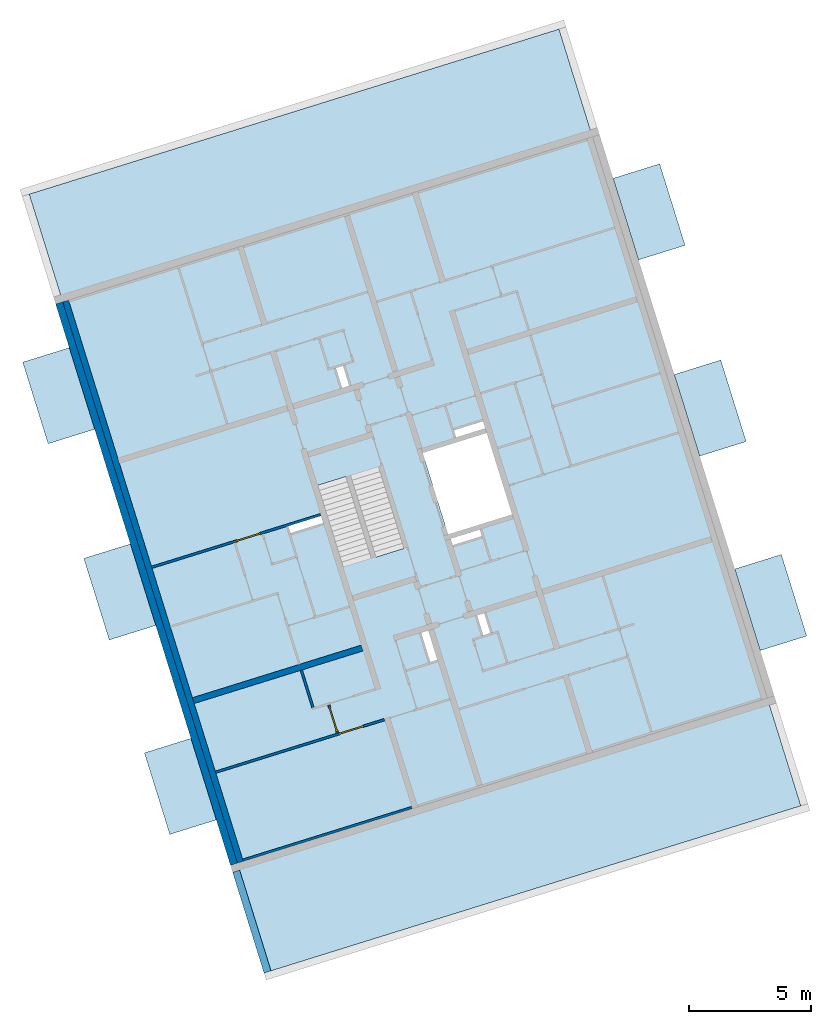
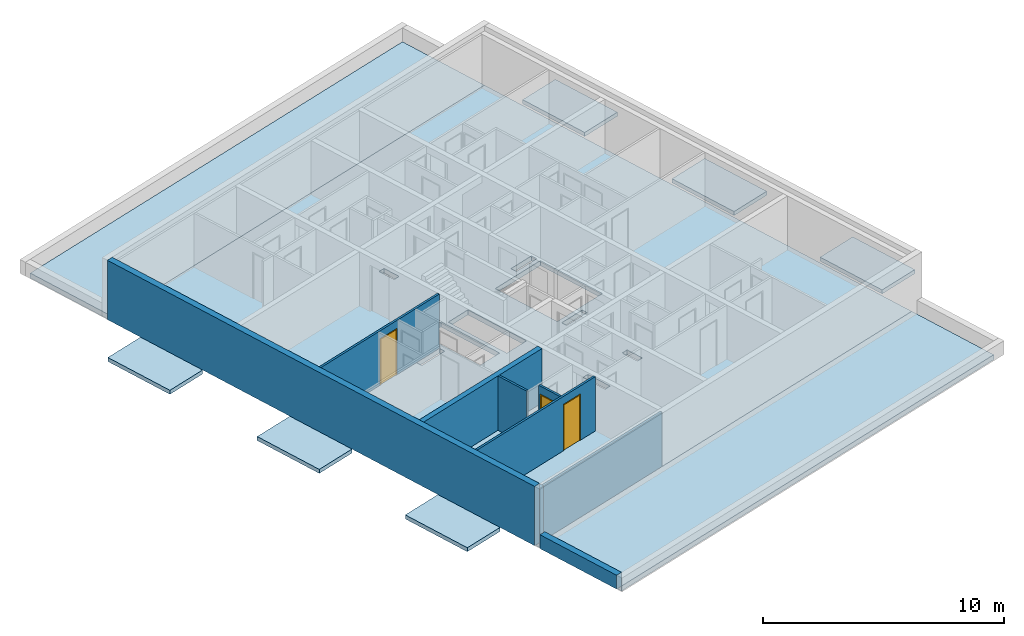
# One storey, part 1 of 9: 9 slabs, 9 walls, 3 doors, 11 openings.
"""IFC4 building model written with IfcOpenShell, lengths in metres."""

from ifc_helpers import new_model, entity, si_unit, converted_unit, direction, frame, origin, place, context, subcontext, project, spatial, indexed_curve, outline, extrude, polygons, source, transform, mapped, material, constituent, constituent_set, type_object, type_shapes, element, fill, save


model = new_model("IFC4")

# Units and contexts
model_context = context("Model", 3, precision=1e-05, world=origin(), true_north=direction((6.12323399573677e-17, 1.0)))
body_context = subcontext(model_context, "Body", "Model", "MODEL_VIEW")
ifc_project = project(units=[si_unit("LENGTHUNIT", "METRE"), si_unit("AREAUNIT", "SQUARE_METRE"), converted_unit("PLANEANGLEUNIT", "DEGREE", entity("IfcPlaneAngleMeasure", 0.0174532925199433), si_unit("PLANEANGLEUNIT", "RADIAN"), dimensions=[0, 0, 0, 0, 0, 0, 0]), si_unit("VOLUMEUNIT", "CUBIC_METRE")], contexts=[model_context])

# Site, building, storey
site_placement = place(None, frame((13.1347999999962, 11.9886000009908, 0.0), z_axis=(0.0, 0.0, 1.0), x_axis=(0.954770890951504, 0.297342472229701, 0.0)))
site = spatial("IfcSite", under=ifc_project, at=site_placement, Name="Schiehaven", CompositionType="ELEMENT")
building_placement = place(site_placement, origin())
building = spatial("IfcBuilding", under=site, at=building_placement, Name="VORM huis", CompositionType="ELEMENT")
storey_placement = place(building_placement, frame((0.0, 0.0, 6.9)))
storey = spatial("IfcBuildingStorey", under=building, at=storey_placement, Name="02 tweede verdieping", CompositionType="ELEMENT", Elevation=6.9)

# Slab, openings
ifc_material_1 = material(Name="beton_gewapend_ihw", Category="Miscellaneous")
slab_type_1 = type_object("IfcSlabType", Name="Floor:28_FL_skelet_vloer 250mm", PredefinedType="FLOOR", material=ifc_material_1)
slab_1_placement = place(storey_placement, origin())
slab_1 = element("IfcSlab", 1, at=slab_1_placement, inside=storey, type_object=slab_type_1, material=ifc_material_1, Name="Constructieve vloer", ObjectType="Vloer", PredefinedType="FLOOR", context=body_context, shape_type="SweptSolid", body=[
    extrude(outline(indexed_curve([(-12.05, -11.375), (12.05, -11.375), (12.05, 11.375), (-12.05, 11.375), (-12.05, -11.375)], self_intersect=False), holes=[indexed_curve([(1.75000000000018, 3.62500000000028), (1.75000000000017, 0.875000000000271), (-1.74999999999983, 0.875000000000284), (-1.74999999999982, 3.62500000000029), (1.75000000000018, 3.62500000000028)], self_intersect=False), indexed_curve([(-1.54, -2.22499999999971), (-1.54, -1.02499999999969), (1.76000000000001, -1.0249999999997), (1.76, -2.22499999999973), (-1.54, -2.22499999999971)], self_intersect=False), indexed_curve([(1.54, -3.62499999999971), (-1.76, -3.6249999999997), (-1.75999999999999, -2.42499999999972), (1.54, -2.42499999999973), (1.54, -3.62499999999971)], self_intersect=False), indexed_curve([(5.27499999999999, 1.02499999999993), (5.27499999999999, 1.32499999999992), (6.125, 1.32499999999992), (6.125, 1.02499999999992), (5.27499999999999, 1.02499999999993)], self_intersect=False), indexed_curve([(-6.12500000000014, -1.18400000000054), (-5.27500000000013, -1.18400000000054), (-5.27500000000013, -1.48400000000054), (-6.12500000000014, -1.48400000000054), (-6.12500000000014, -1.18400000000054)], self_intersect=False), indexed_curve([(5.27500000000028, -1.07500000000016), (6.5250000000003, -1.07500000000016), (6.52500000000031, -1.37500000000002), (5.27500000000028, -1.37500000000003), (5.27500000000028, -1.07500000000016)], self_intersect=False), indexed_curve([(-0.524999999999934, -3.87283572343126), (-0.224999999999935, -3.87283572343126), (-0.22499999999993, -5.27500000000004), (-0.524999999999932, -5.27500000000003), (-0.524999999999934, -3.87283572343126)], self_intersect=False), indexed_curve([(1.95000000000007, 2.17499999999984), (2.22500000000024, 2.17499999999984), (2.22500000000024, 0.924999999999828), (1.95000000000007, 0.924999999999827), (1.95000000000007, 2.17499999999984)], self_intersect=False), indexed_curve([(-2.25000000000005, 3.62499999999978), (-1.94999999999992, 3.62499999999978), (-1.94999999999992, 2.37499999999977), (-2.25000000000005, 2.37499999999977), (-2.25000000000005, 3.62499999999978)], self_intersect=False)]), frame((68.7500000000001, 17.0499999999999, -0.249999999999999), z_axis=(0.0, 0.0, 1.0), x_axis=(0.0, -1.0, 0.0)), (0.0, 0.0, 1.0), 0.249999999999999),
])
opening_1_placement = place(slab_1_placement, origin())
element("IfcOpeningElement", 2, at=opening_1_placement, cuts=slab_1, Name="Constructieve vloer", PredefinedType="OPENING", context=body_context, shape_type="SweptSolid", body=[
    extrude(outline(indexed_curve([(-1.75, -1.37499999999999), (1.75, -1.37499999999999), (1.75, 1.37500000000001), (-1.75, 1.37500000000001), (-1.75, -1.37499999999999)], self_intersect=False)), frame((71.0, 17.0499999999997, -0.249999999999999), z_axis=(0.0, 0.0, 1.0), x_axis=(0.0, 1.0, 0.0)), (0.0, 0.0, 1.0), 0.249999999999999),
])
opening_2_placement = place(slab_1_placement, origin())
element("IfcOpeningElement", 3, at=opening_2_placement, cuts=slab_1, Name="Constructieve vloer", PredefinedType="OPENING", context=body_context, shape_type="SweptSolid", body=[
    extrude(outline(indexed_curve([(-1.65, -0.600000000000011), (1.65000000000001, -0.600000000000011), (1.65000000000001, 0.600000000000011), (-1.65, 0.600000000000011), (-1.65, -0.600000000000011)], self_intersect=False)), frame((67.1250000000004, 16.9399999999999, -0.249999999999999), z_axis=(0.0, 0.0, 1.0), x_axis=(0.0, -1.0, 0.0)), (0.0, 0.0, 1.0), 0.249999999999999),
])
opening_3_placement = place(slab_1_placement, origin())
element("IfcOpeningElement", 4, at=opening_3_placement, cuts=slab_1, Name="Constructieve vloer", PredefinedType="OPENING", context=body_context, shape_type="SweptSolid", body=[
    extrude(outline(indexed_curve([(-0.425000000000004, -0.150000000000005), (0.425000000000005, -0.150000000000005), (0.425000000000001, 0.149999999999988), (-0.425000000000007, 0.149999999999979), (-0.425000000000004, -0.150000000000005)], self_intersect=False)), frame((69.925, 11.3499999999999, -0.249999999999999), z_axis=(0.0, 0.0, 1.0), x_axis=(0.0, -1.0, 0.0)), (0.0, 0.0, 1.0), 0.249999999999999),
])
opening_4_placement = place(slab_1_placement, origin())
element("IfcOpeningElement", 5, at=opening_4_placement, cuts=slab_1, Name="Constructieve vloer", PredefinedType="OPENING", context=body_context, shape_type="SweptSolid", body=[
    extrude(outline(indexed_curve([(-0.150000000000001, -0.425000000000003), (0.150000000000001, -0.425000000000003), (0.150000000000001, 0.425000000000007), (-0.150000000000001, 0.425000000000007), (-0.150000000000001, -0.425000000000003)], self_intersect=False)), frame((67.4159999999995, 22.7500000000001, -0.249999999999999), z_axis=(0.0, 0.0, 1.0), x_axis=(-1.0, 0.0, 0.0)), (0.0, 0.0, 1.0), 0.249999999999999),
])
opening_5_placement = place(slab_1_placement, origin())
element("IfcOpeningElement", 6, at=opening_5_placement, cuts=slab_1, Name="Constructieve vloer", PredefinedType="OPENING", context=body_context, shape_type="SweptSolid", body=[
    extrude(outline(indexed_curve([(-0.14999999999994, -0.625000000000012), (0.149999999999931, -0.625000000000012), (0.149999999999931, 0.625000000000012), (-0.14999999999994, 0.625000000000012), (-0.14999999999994, -0.625000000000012)], self_intersect=False)), frame((67.525, 11.1499999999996, -0.249999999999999), z_axis=(0.0, 0.0, 1.0), x_axis=(-1.0, 0.0, 0.0)), (0.0, 0.0, 1.0), 0.249999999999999),
])
opening_6_placement = place(slab_1_placement, origin())
element("IfcOpeningElement", 7, at=opening_6_placement, cuts=slab_1, Name="Constructieve vloer", PredefinedType="OPENING", context=body_context, shape_type="SweptSolid", body=[
    extrude(outline(indexed_curve([(-0.701082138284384, -0.150000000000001), (0.701082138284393, -0.150000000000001), (0.701082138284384, 0.149999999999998), (-0.701082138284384, 0.150000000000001), (-0.701082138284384, -0.150000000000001)], self_intersect=False)), frame((64.1760821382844, 17.4249999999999, -0.249999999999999), z_axis=(0.0, 0.0, 1.0), x_axis=(-1.0, 0.0, 0.0)), (0.0, 0.0, 1.0), 0.249999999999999),
])
opening_7_placement = place(slab_1_placement, origin())
element("IfcOpeningElement", 8, at=opening_7_placement, cuts=slab_1, Name="Constructieve vloer", PredefinedType="OPENING", context=body_context, shape_type="SweptSolid", body=[
    extrude(outline(indexed_curve([(-0.625000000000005, -0.137500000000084), (0.625000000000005, -0.137500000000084), (0.625000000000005, 0.137500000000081), (-0.625000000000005, 0.137500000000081), (-0.625000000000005, -0.137500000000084)], self_intersect=False)), frame((70.2999999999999, 14.9624999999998, -0.249999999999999), z_axis=(0.0, 0.0, 1.0), x_axis=(-1.0, 0.0, 0.0)), (0.0, 0.0, 1.0), 0.249999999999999),
])
opening_8_placement = place(slab_1_placement, origin())
element("IfcOpeningElement", 9, at=opening_8_placement, cuts=slab_1, Name="Constructieve vloer", PredefinedType="OPENING", context=body_context, shape_type="SweptSolid", body=[
    extrude(outline(indexed_curve([(-0.625000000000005, -0.150000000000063), (0.625000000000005, -0.150000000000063), (0.625000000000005, 0.150000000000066), (-0.625000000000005, 0.150000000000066), (-0.625000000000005, -0.150000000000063)], self_intersect=False)), frame((71.7499999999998, 19.1499999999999, -0.249999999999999), z_axis=(0.0, 0.0, 1.0), x_axis=(-1.0, 0.0, 0.0)), (0.0, 0.0, 1.0), 0.249999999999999),
])

# Slabs
ifc_material_2 = material(Name="beton_gewapend_prefab-element", Category="Miscellaneous")
slab_type_2 = type_object("IfcSlabType", Name="Floor:23_FL_skelet_balkon 200mm", PredefinedType="FLOOR", material=ifc_material_2)
slab_2_placement = place(storey_placement, origin())
element("IfcSlab", 10, at=slab_2_placement, inside=storey, type_object=slab_type_2, material=ifc_material_2, Name="Balkonvloer", ObjectType="Vloer", PredefinedType="FLOOR", context=body_context, shape_type="SweptSolid", body=[
    extrude(outline(indexed_curve([(-1.75000000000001, -0.999999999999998), (1.75000000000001, -0.999999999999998), (1.75000000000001, 0.999999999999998), (-1.75000000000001, 0.999999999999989), (-1.75000000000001, -0.999999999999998)], self_intersect=False)), frame((56.0750000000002, 25.4749999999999, 0.0), z_axis=(0.0, 0.0, -1.0), x_axis=(0.0, 1.0, 0.0)), (0.0, 0.0, 1.0), 0.2),
])
slab_3_placement = place(storey_placement, origin())
element("IfcSlab", 11, at=slab_3_placement, inside=storey, type_object=slab_type_2, material=ifc_material_2, Name="Balkonvloer", ObjectType="Vloer", PredefinedType="FLOOR", context=body_context, shape_type="SweptSolid", body=[
    extrude(outline(indexed_curve([(-1.75000000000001, -0.999999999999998), (1.75000000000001, -0.999999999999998), (1.75000000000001, 0.999999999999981), (-1.75000000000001, 0.999999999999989), (-1.75000000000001, -0.999999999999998)], self_intersect=False)), frame((56.0750000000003, 8.69999999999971, 0.0), z_axis=(0.0, 0.0, -1.0), x_axis=(0.0, 1.0, 0.0)), (0.0, 0.0, 1.0), 0.2),
])
slab_4_placement = place(storey_placement, origin())
element("IfcSlab", 12, at=slab_4_placement, inside=storey, type_object=slab_type_2, material=ifc_material_2, Name="Balkonvloer", ObjectType="Vloer", PredefinedType="FLOOR", context=body_context, shape_type="SweptSolid", body=[
    extrude(outline(indexed_curve([(-1.75000000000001, -1.0), (1.75000000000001, -1.0), (1.75000000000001, 0.999999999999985), (-1.75000000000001, 0.999999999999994), (-1.75000000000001, -1.0)], self_intersect=False)), frame((56.0750000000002, 17.0499999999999, 0.0), z_axis=(0.0, 0.0, -1.0), x_axis=(0.0, 1.0, 0.0)), (0.0, 0.0, 1.0), 0.2),
])
slab_5_placement = place(storey_placement, origin())
element("IfcSlab", 13, at=slab_5_placement, inside=storey, type_object=slab_type_2, material=ifc_material_2, Name="Balkonvloer", ObjectType="Vloer", PredefinedType="FLOOR", context=body_context, shape_type="SweptSolid", body=[
    extrude(outline(indexed_curve([(-1.75000000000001, -0.999999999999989), (1.75000000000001, -0.999999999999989), (1.75000000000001, 1.00000000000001), (-1.75000000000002, 0.999999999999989), (-1.75000000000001, -0.999999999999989)], self_intersect=False)), frame((81.4249999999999, 25.4750000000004, 0.0), z_axis=(0.0, 0.0, -1.0), x_axis=(0.0, 1.0, 0.0)), (0.0, 0.0, 1.0), 0.2),
])
slab_6_placement = place(storey_placement, origin())
element("IfcSlab", 14, at=slab_6_placement, inside=storey, type_object=slab_type_2, material=ifc_material_2, Name="Balkonvloer", ObjectType="Vloer", PredefinedType="FLOOR", context=body_context, shape_type="SweptSolid", body=[
    extrude(outline(indexed_curve([(-1.75000000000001, -0.999999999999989), (1.75, -0.999999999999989), (1.75000000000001, 0.999999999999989), (-1.75, 1.00000000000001), (-1.75000000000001, -0.999999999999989)], self_intersect=False)), frame((81.425, 8.69999999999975, 0.0), z_axis=(0.0, 0.0, -1.0), x_axis=(0.0, 1.0, 0.0)), (0.0, 0.0, 1.0), 0.2),
])
slab_7_placement = place(storey_placement, origin())
element("IfcSlab", 15, at=slab_7_placement, inside=storey, type_object=slab_type_2, material=ifc_material_2, Name="Balkonvloer", ObjectType="Vloer", PredefinedType="FLOOR", context=body_context, shape_type="SweptSolid", body=[
    extrude(outline(indexed_curve([(-1.75000000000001, -0.999999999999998), (1.75, -0.999999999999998), (1.75000000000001, 0.999999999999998), (-1.75000000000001, 0.999999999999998), (-1.75000000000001, -0.999999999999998)], self_intersect=False)), frame((81.425, 17.05, 0.0), z_axis=(0.0, 0.0, -1.0), x_axis=(0.0, 1.0, 0.0)), (0.0, 0.0, 1.0), 0.2),
])
slab_type_3 = type_object("IfcSlabType", Name="Floor:28_FL_skelet_dakterrasvloer 250mm", PredefinedType="ROOF", material=ifc_material_1)
slab_8_placement = place(storey_placement, origin())
element("IfcSlab", 16, at=slab_8_placement, inside=storey, type_object=slab_type_3, material=ifc_material_1, Name="Begaanbare dakvloer", ObjectType="Vloer", PredefinedType="ROOF", context=body_context, shape_type="SweptSolid", body=[
    extrude(outline(indexed_curve([(-2.31249999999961, -11.375), (2.31250000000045, -11.375), (2.31249999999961, 11.375), (-2.31250000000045, 11.375), (-2.31249999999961, -11.375)], self_intersect=False)), frame((68.7500000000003, 2.68749999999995, 0.0), z_axis=(0.0, 0.0, -1.0), x_axis=(0.0, 1.0, 0.0)), (0.0, 0.0, 1.0), 0.249999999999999),
])
slab_9_placement = place(storey_placement, origin())
element("IfcSlab", 17, at=slab_9_placement, inside=storey, type_object=slab_type_3, material=ifc_material_1, Name="Begaanbare dakvloer", ObjectType="Vloer", PredefinedType="ROOF", context=body_context, shape_type="SweptSolid", body=[
    extrude(outline(indexed_curve([(-2.31249999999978, -11.3750000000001), (2.31250000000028, -11.3750000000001), (2.31249999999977, 11.3750000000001), (-2.31250000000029, 11.3750000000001), (-2.31249999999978, -11.3750000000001)], self_intersect=False)), frame((68.7500000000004, 31.4124999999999, 0.0), z_axis=(0.0, 0.0, -1.0), x_axis=(0.0, 1.0, 0.0)), (0.0, 0.0, 1.0), 0.249999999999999),
])

# Walls
wall_type_1 = type_object("IfcWallType", Name="Basic Wall:28_WA_skelet_wand 250mm_gen", PredefinedType="STANDARD")
wall_1_placement = place(storey_placement, frame((57.5, 5.0, 0.0), z_axis=(0.0, 0.0, 1.0), x_axis=(0.0, 1.0, 0.0)))
element("IfcWall", 18, at=wall_1_placement, inside=storey, type_object=wall_type_1, material=ifc_material_1, Name="Constructieve wand", ObjectType="Wand", PredefinedType="NOTDEFINED", context=body_context, shape_type="SweptSolid", body=[
    extrude(outline(indexed_curve([(24.1, 0.125), (-3.3623437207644e-16, 0.124999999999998), (3.3623437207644e-16, -0.124999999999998), (24.1, -0.124999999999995), (24.1, 0.125)], self_intersect=False)), origin(), (0.0, 0.0, 1.0), 2.75),
])
ifc_material_3 = material(Name="ntb_ntb_ntb", Category="Miscellaneous")
wall_type_2 = type_object("IfcWallType", Name="Basic Wall:21_WA_gevel_binnenspouwwand 100mm_gen", PredefinedType="STANDARD")
wall_2_placement = place(storey_placement, frame((64.8750000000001, 5.0499999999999, 0.0), z_axis=(0.0, 0.0, 1.0), x_axis=(-1.0, 0.0, 0.0)))
element("IfcWall", 19, at=wall_2_placement, inside=storey, type_object=wall_type_2, material=ifc_material_3, Name="Binnenspouwblad", ObjectType="Wand", PredefinedType="NOTDEFINED", context=body_context, shape_type="SweptSolid", body=[
    extrude(outline(indexed_curve([(7.24999999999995, 0.0500000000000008), (5.48749790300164e-18, 0.0500000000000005), (-5.48749790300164e-18, -0.0500000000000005), (7.24999999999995, -0.0500000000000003), (7.24999999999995, 0.0500000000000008)], self_intersect=False)), origin(), (0.0, 0.0, 1.0), 2.75),
])
wall_type_3 = type_object("IfcWallType", Name="Basic Wall: 300mm_gen", PredefinedType="STANDARD")
wall_3_placement = place(storey_placement, frame((57.2249999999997, 29.0999999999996, 0.0), z_axis=(0.0, 0.0, 1.0), x_axis=(0.0, -1.0, 0.0)))
element("IfcWall", 20, at=wall_3_placement, inside=storey, type_object=wall_type_3, material=ifc_material_3, Name="Gevelwand", ObjectType="Wand", PredefinedType="NOTDEFINED", context=body_context, shape_type="SweptSolid", body=[
    extrude(outline(indexed_curve([(24.1, 0.150000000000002), (1.77178001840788e-15, 0.150000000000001), (-1.77178001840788e-15, -0.150000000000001), (24.1, -0.149999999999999), (24.1, 0.150000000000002)], self_intersect=False)), origin(), (0.0, 0.0, 1.0), 3.0),
])
wall_4_placement = place(storey_placement, frame((57.2250000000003, 4.69999999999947, 0.0), z_axis=(0.0, 0.0, 1.0), x_axis=(0.0, -1.0, 0.0)))
element("IfcWall", 21, at=wall_4_placement, inside=storey, type_object=wall_type_3, material=ifc_material_3, Name="Gevelwand", ObjectType="Wand", PredefinedType="NOTDEFINED", context=body_context, shape_type="SweptSolid", body=[
    extrude(outline(indexed_curve([(4.32500000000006, 0.15), (2.10209844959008e-17, 0.150000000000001), (-2.10209844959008e-17, -0.150000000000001), (4.32500000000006, -0.150000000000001), (4.32500000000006, 0.15)], self_intersect=False)), origin(), (0.0, 0.0, 1.0), 0.700000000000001),
])
wall_type_4 = type_object("IfcWallType", Name="Basic Wall:22_WA_afbouw_binnenwand 250mm_gen", PredefinedType="STANDARD")
wall_5_placement = place(storey_placement, frame((64.8750000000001, 11.8999999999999, 0.0), z_axis=(0.0, 0.0, 1.0), x_axis=(-1.0, 0.0, 0.0)))
element("IfcWall", 22, at=wall_5_placement, inside=storey, type_object=wall_type_4, material=ifc_material_3, Name="Binnenwand", ObjectType="Wand", PredefinedType="NOTDEFINED", context=body_context, shape_type="SweptSolid", body=[
    extrude(outline(indexed_curve([(7.24999999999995, 0.125000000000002), (-2.56336468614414e-16, 0.125), (2.56336468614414e-16, -0.125), (7.24999999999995, -0.124999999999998), (7.24999999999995, 0.125000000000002)], self_intersect=False)), origin(), (0.0, 0.0, 1.0), 2.75),
])

# Wall, opening, door
wall_type_5 = type_object("IfcWallType", Name="Basic Wall:22_WA_afbouw_binnenwand 100mm_gen", PredefinedType="STANDARD")
wall_6_placement = place(storey_placement, frame((57.625, 8.82499999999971, 0.0)))
wall_6 = element("IfcWall", 23, at=wall_6_placement, inside=storey, type_object=wall_type_5, material=ifc_material_3, Name="Binnenwand", ObjectType="Wand", PredefinedType="NOTDEFINED", context=body_context, shape_type="Tessellation", body=[
    polygons([(6.35000000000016, -0.0500000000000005, 2.34999999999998), (6.35000000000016, -0.0500000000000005, 1.08286712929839e-15), (7.25000000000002, -0.0500000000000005, 1.08286712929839e-15), (7.25000000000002, -0.0500000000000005, 2.75), (3.7040239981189e-15, -0.0500000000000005, 2.75), (3.7040239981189e-15, -0.0500000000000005, 1.08286712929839e-15), (5.30000000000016, -0.0500000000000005, 1.08286712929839e-15), (5.30000000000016, -0.0500000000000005, 2.34999999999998), (7.25000000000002, 0.0499999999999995, 1.08286712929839e-15), (6.35000000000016, 0.0499999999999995, 1.08286712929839e-15), (6.35000000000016, 0.0499999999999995, 2.34999999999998), (5.30000000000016, 0.0499999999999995, 2.34999999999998), (5.30000000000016, 0.0499999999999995, 1.08286712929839e-15), (5.20000000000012, 0.0499999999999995, 0.0), (3.64751216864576e-15, 0.0499999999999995, 1.08286712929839e-15), (3.64751216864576e-15, 0.0499999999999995, 2.75), (5.20000000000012, 0.0499999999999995, 2.75), (5.30000000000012, 0.0499999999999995, 2.75), (7.25000000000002, 0.0499999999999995, 2.75)], [[[1, 2, 3, 4, 5, 6, 7, 8]], [[9, 10, 11, 12, 13, 14, 15, 16, 17, 18, 19]], [[7, 6, 15, 14, 13]], [[4, 3, 9, 19]], [[5, 4, 19, 18, 17, 16]], [[6, 5, 16, 15]], [[13, 12, 8, 7]], [[11, 10, 2, 1]], [[12, 11, 1, 8]], [[3, 2, 10, 9]]], closed=True),
])
opening_9_placement = place(wall_6_placement, frame((5.30000000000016, -0.0500000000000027, 0.0)))
opening_9 = element("IfcOpeningElement", 24, at=opening_9_placement, cuts=wall_6, Name="Binnendeur", PredefinedType="OPENING", context=body_context, shape_type="SweptSolid", body=[
    extrude(outline(indexed_curve([(2.34999999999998, 0.0), (2.34999999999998, 1.05), (0.0, 1.05), (0.0, 0.0), (2.34999999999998, 0.0)], self_intersect=False)), frame((0.0, 0.0, 0.0), z_axis=(0.0, 1.0, 0.0), x_axis=(0.0, 0.0, 1.0)), (0.0, 0.0, 1.0), 0.1),
])
ifc_material_4 = material(Name="PD_a_binnenwandopeningen", Category="Miscellaneous")
ifc_constituent_1 = constituent(ifc_material_4, Name="PD_a_binnenwandopeningen", Category="Miscellaneous")
ifc_material_5 = material(Name="metaal_aluminium_ntb", Category="Miscellaneous")
ifc_constituent_2 = constituent(ifc_material_5, Name="metaal_aluminium_ntb", Category="Miscellaneous")
ifc_constituent_set_1 = constituent_set(constituents=[ifc_constituent_1, ifc_constituent_2])
ifc_constituent_3 = constituent(ifc_material_4, Name="PD_a_binnenwandopeningen", Category="Miscellaneous")
ifc_constituent_4 = constituent(ifc_material_5, Name="Panel", Category="Miscellaneous")
ifc_constituent_set_2 = constituent_set(constituents=[ifc_constituent_3, ifc_constituent_4])
door_type_1 = type_object("IfcDoorType", Name="32_DO_binnendeur enkel:binnendeur", OperationType="REVOLVING", PredefinedType="DOOR", material=ifc_constituent_set_2)
shared_shape_1 = source(origin(), body_context, "Body", "SweptSolid", [
    extrude(outline(indexed_curve([(0.475, -1.16249999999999), (0.525, -1.16249999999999), (0.525, 1.18749999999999), (-0.525, 1.18749999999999), (-0.525, -1.16249999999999), (-0.475, -1.16249999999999), (-0.475, 1.13749999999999), (0.475, 1.13749999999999), (0.475, -1.16249999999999)], self_intersect=False)), frame((0.525000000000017, 0.100000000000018, 1.16249999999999), z_axis=(0.0, -1.0, 0.0), x_axis=(1.0, 0.0, 0.0)), (0.0, 0.0, 1.0), 0.1),
    extrude(outline(indexed_curve([(-0.475, -0.025), (0.475, -0.025), (0.475, 0.025), (-0.475, 0.025), (-0.475, -0.025)], self_intersect=False)), frame((0.525000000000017, 0.0499999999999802, 0.0)), (0.0, 0.0, 1.0), 2.29999999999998),
])
type_shapes(door_type_1, [shared_shape_1])
door_1_placement = place(opening_9_placement, origin())
door_1 = element("IfcDoor", 25, at=door_1_placement, inside=storey, type_object=door_type_1, material=ifc_constituent_set_1, Name="Binnendeur", ObjectType="Deur", OperationType="REVOLVING", OverallHeight=2.34999999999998, OverallWidth=1.05, PredefinedType="DOOR", context=body_context, shape_type="MappedRepresentation", body=[
    mapped(shared_shape_1, transform((0.0, 0.0, 0.0), scale=1.0)),
])
fill(opening_9, door_1)

# Wall
wall_7_placement = place(storey_placement, frame((62.225, 10.1749999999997, 0.0), z_axis=(0.0, 0.0, 1.0), x_axis=(0.0, 1.0, 0.0)))
element("IfcWall", 26, at=wall_7_placement, inside=storey, type_object=wall_type_5, material=ifc_material_3, Name="Binnenwand", ObjectType="Wand", PredefinedType="NOTDEFINED", context=body_context, shape_type="SweptSolid", body=[
    extrude(outline(indexed_curve([(1.6000000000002, 0.0499999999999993), (-6.12369559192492e-17, 0.0499999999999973), (6.12369559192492e-17, -0.0499999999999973), (1.6000000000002, -0.0499999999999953), (1.6000000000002, 0.0499999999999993)], self_intersect=False)), origin(), (0.0, 0.0, 1.0), 2.75),
])

# Wall, opening, door
wall_8_placement = place(storey_placement, frame((62.8750000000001, 10.0749999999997, 0.0), z_axis=(0.0, 0.0, 1.0), x_axis=(0.0, -1.0, 0.0)))
wall_8 = element("IfcWall", 27, at=wall_8_placement, inside=storey, type_object=wall_type_5, material=ifc_material_3, Name="Binnenwand", ObjectType="Wand", PredefinedType="NOTDEFINED", context=body_context, shape_type="Tessellation", body=[
    polygons([(1.2, -0.0499999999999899, 2.75), (2.16573425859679e-15, -0.0500000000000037, 2.75), (2.16573425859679e-15, -0.0500000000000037, 1.08286712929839e-15), (0.0799999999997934, -0.0500000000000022, 1.08286712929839e-15), (0.0799999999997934, -0.0500000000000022, 2.34999999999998), (1.12999999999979, -0.0499999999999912, 2.34999999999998), (1.12999999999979, -0.0499999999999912, 1.08286712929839e-15), (1.2, -0.0499999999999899, 1.08286712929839e-15), (0.0, 0.0499999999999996, 2.75), (1.19999999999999, 0.0500000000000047, 2.75), (1.19999999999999, 0.0500000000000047, 2.34999999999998), (1.19999999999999, 0.0500000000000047, 1.08286712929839e-15), (1.12999999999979, 0.0500000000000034, 1.08286712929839e-15), (1.12999999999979, 0.0500000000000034, 2.34999999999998), (0.0799999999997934, 0.0500000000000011, 2.34999999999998), (0.0799999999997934, 0.0500000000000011, 1.08286712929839e-15), (0.0, 0.0499999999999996, 1.08286712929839e-15), (0.0, 0.0499999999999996, 2.34999999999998)], [[[1, 2, 3, 4, 5, 6, 7, 8]], [[9, 10, 11, 12, 13, 14, 15, 16, 17, 18]], [[3, 17, 16, 4]], [[2, 1, 10, 9]], [[6, 14, 13, 7]], [[14, 6, 5, 15]], [[15, 5, 4, 16]], [[1, 8, 12, 11, 10]], [[3, 2, 9, 18, 17]], [[12, 8, 7, 13]]], closed=True),
])
opening_10_placement = place(wall_8_placement, frame((0.0799999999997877, -0.0499999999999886, 0.0)))
opening_10 = element("IfcOpeningElement", 28, at=opening_10_placement, cuts=wall_8, Name="Binnendeur", PredefinedType="OPENING", context=body_context, shape_type="SweptSolid", body=[
    extrude(outline(indexed_curve([(2.34999999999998, 1.05), (0.0, 1.05), (0.0, 1.35358391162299e-15), (2.34999999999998, 1.35358391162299e-15), (2.34999999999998, 1.05)], self_intersect=False)), frame((0.0, 0.0, 0.0), z_axis=(0.0, 1.0, 0.0), x_axis=(0.0, 0.0, 1.0)), (0.0, 0.0, 1.0), 0.1),
])
ifc_constituent_5 = constituent(ifc_material_4, Name="PD_a_binnenwandopeningen", Category="Miscellaneous")
ifc_constituent_6 = constituent(ifc_material_5, Name="metaal_aluminium_ntb", Category="Miscellaneous")
ifc_constituent_set_3 = constituent_set(constituents=[ifc_constituent_5, ifc_constituent_6])
ifc_constituent_7 = constituent(ifc_material_4, Name="PD_a_binnenwandopeningen", Category="Miscellaneous")
ifc_constituent_8 = constituent(ifc_material_5, Name="Panel", Category="Miscellaneous")
ifc_constituent_set_4 = constituent_set(constituents=[ifc_constituent_7, ifc_constituent_8])
door_type_2 = type_object("IfcDoorType", Name="32_DO_binnendeur enkel:binnendeur", OperationType="REVOLVING", PredefinedType="DOOR", material=ifc_constituent_set_4)
shared_shape_2 = source(origin(), body_context, "Body", "SweptSolid", [
    extrude(outline(indexed_curve([(-1.16249999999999, -0.525000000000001), (1.18749999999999, -0.525), (1.18749999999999, 0.525), (-1.16249999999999, 0.525), (-1.16249999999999, 0.475), (1.13749999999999, 0.475), (1.13749999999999, -0.475), (-1.16249999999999, -0.475), (-1.16249999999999, -0.525000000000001)], self_intersect=False)), frame((0.525000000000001, 0.0, 1.16249999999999), z_axis=(0.0, 1.0, 0.0), x_axis=(0.0, 0.0, 1.0)), (0.0, 0.0, 1.0), 0.1),
    extrude(outline(indexed_curve([(-0.025, -0.475), (0.025, -0.475), (0.025, 0.475), (-0.025, 0.475), (-0.025, -0.475)], self_intersect=False)), frame((0.525000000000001, 0.0499999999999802, 0.0), z_axis=(0.0, 0.0, 1.0), x_axis=(0.0, 1.0, 0.0)), (0.0, 0.0, 1.0), 2.29999999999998),
])
type_shapes(door_type_2, [shared_shape_2])
door_2_placement = place(opening_10_placement, origin())
door_2 = element("IfcDoor", 29, at=door_2_placement, inside=storey, type_object=door_type_2, material=ifc_constituent_set_3, Name="Binnendeur", ObjectType="Deur", OperationType="REVOLVING", OverallHeight=2.34999999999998, OverallWidth=1.05, PredefinedType="DOOR", context=body_context, shape_type="MappedRepresentation", body=[
    mapped(shared_shape_2, transform((0.0, 0.0, 0.0), scale=1.0)),
])
fill(opening_10, door_2)

wall_9_placement = place(storey_placement, frame((64.8771642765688, 17.6249999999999, 0.0), z_axis=(0.0, 0.0, 1.0), x_axis=(-1.0, 0.0, 0.0)))
wall_9 = element("IfcWall", 30, at=wall_9_placement, inside=storey, type_object=wall_type_5, material=ifc_material_3, Name="Binnenwand", ObjectType="Wand", PredefinedType="NOTDEFINED", context=body_context, shape_type="Tessellation", body=[
    polygons([(-3.15844037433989e-15, -0.0500000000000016, 1.08286712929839e-15), (2.57716427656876, -0.0500000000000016, 1.08286712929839e-15), (2.57716427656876, -0.0500000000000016, 2.34999999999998), (3.62716427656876, -0.0500000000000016, 2.34999999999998), (3.62716427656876, -0.0500000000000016, 1.08286712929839e-15), (7.25216427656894, -0.0499999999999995, 1.08286712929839e-15), (7.25216427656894, -0.0499999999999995, 2.75), (-3.15844037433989e-15, -0.0500000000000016, 2.75), (2.57716427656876, 0.0499999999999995, 2.34999999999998), (2.57716427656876, 0.0499999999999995, 1.08286712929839e-15), (2.55216427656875, 0.0499999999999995, 0.0), (2.45216427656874, 0.0499999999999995, 0.0), (1.50216427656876, 0.0499999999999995, 0.0), (1.40216427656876, 0.0499999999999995, 0.0), (-3.14057083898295e-15, 0.0499999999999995, 1.08286712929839e-15), (-3.14057083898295e-15, 0.0499999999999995, 2.75), (1.40216427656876, 0.0499999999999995, 2.75), (1.50216427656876, 0.0499999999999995, 2.75), (2.45216427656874, 0.0499999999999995, 2.75), (2.55216427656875, 0.0499999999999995, 2.75), (3.65216427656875, 0.0499999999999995, 2.75), (3.75216427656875, 0.0499999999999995, 2.75), (7.25216427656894, 0.0500000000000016, 2.75), (7.25216427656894, 0.0500000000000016, 1.08286712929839e-15), (3.75216427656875, 0.0499999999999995, 0.0), (3.65216427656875, 0.0499999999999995, 0.0), (3.62716427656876, 0.0499999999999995, 1.08286712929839e-15), (3.62716427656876, 0.0499999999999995, 2.34999999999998)], [[[1, 2, 3, 4, 5, 6, 7, 8]], [[9, 10, 11, 12, 13, 14, 15, 16, 17, 18, 19, 20, 21, 22, 23, 24, 25, 26, 27, 28]], [[15, 14, 13, 12, 11, 10, 2, 1]], [[7, 6, 24, 23]], [[8, 7, 23, 22, 21, 20, 19, 18, 17, 16]], [[1, 8, 16, 15]], [[5, 4, 28, 27]], [[3, 2, 10, 9]], [[4, 3, 9, 28]], [[27, 26, 25, 24, 6, 5]]], closed=True),
])
opening_11_placement = place(wall_9_placement, frame((3.62716427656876, 0.0499999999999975, 0.0)))
opening_11 = element("IfcOpeningElement", 31, at=opening_11_placement, cuts=wall_9, Name="Binnendeur", PredefinedType="OPENING", context=body_context, shape_type="SweptSolid", body=[
    extrude(outline(indexed_curve([(2.34999999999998, 3.47701286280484e-32), (2.34999999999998, 1.05), (0.0, 1.05), (0.0, 3.47701286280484e-32), (2.34999999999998, 3.47701286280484e-32)], self_intersect=False)), frame((0.0, 0.0, 0.0), z_axis=(0.0, -1.0, 0.0), x_axis=(0.0, 0.0, 1.0)), (0.0, 0.0, 1.0), 0.1),
])
ifc_constituent_9 = constituent(ifc_material_4, Name="PD_a_binnenwandopeningen", Category="Miscellaneous")
ifc_constituent_10 = constituent(ifc_material_5, Name="metaal_aluminium_ntb", Category="Miscellaneous")
ifc_constituent_set_5 = constituent_set(constituents=[ifc_constituent_9, ifc_constituent_10])
door_3_placement = place(opening_11_placement, frame((0.0, 0.0, 0.0), z_axis=(0.0, 0.0, 1.0), x_axis=(-1.0, 0.0, 0.0)))
door_3 = element("IfcDoor", 32, at=door_3_placement, inside=storey, type_object=door_type_1, material=ifc_constituent_set_5, Name="Binnendeur", ObjectType="Deur", OperationType="REVOLVING", OverallHeight=2.34999999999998, OverallWidth=1.05, PredefinedType="DOOR", context=body_context, shape_type="MappedRepresentation", body=[
    mapped(shared_shape_1, transform((0.0, 0.0, 0.0), scale=1.0)),
])
fill(opening_11, door_3)

save(model, "model.ifc")
